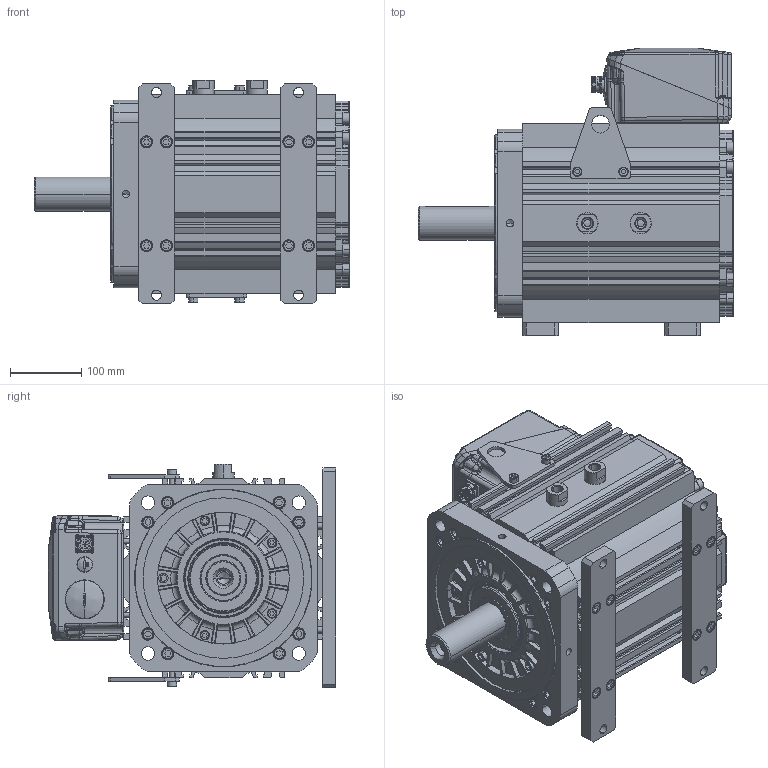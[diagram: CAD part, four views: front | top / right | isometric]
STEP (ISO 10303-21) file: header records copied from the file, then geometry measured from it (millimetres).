
FILE_DESCRIPTION((''),'2;1');
FILE_NAME('51560N-0_SW0001','2016-06-30T',('zhuanghaohui'),(''),'PRO/ENGINEER BY PARAMETRIC TECHNOLOGY CORPORATION, 2010430','PRO/ENGINEER BY PARAMETRIC TECHNOLOGY CORPORATION, 2010430','');
FILE_SCHEMA(('CONFIG_CONTROL_DESIGN'));
Products named in the file (1): 51560N-0_SW0001
Bounding box: 444.02 x 404.3 x 314.15 mm (x, y, z)
Surface area: 1854177.3 mm2 (no closed solid volume)
Topology: 0 solids, 170 shells, 3504 faces, 11015 edges, 7539 vertices
Faces by surface type: plane 1353, cylinder 1040, bspline 541, cone 295, torus 240, sphere 27, extrusion 4, revolution 4
Entity records: 248437 total; most frequent: CARTESIAN_POINT 154863, DIRECTION 18946, ORIENTED_EDGE 18699, EDGE_CURVE 11003, VERTEX_POINT 7539, AXIS2_PLACEMENT_3D 6946, VECTOR 5050, LINE 5046
